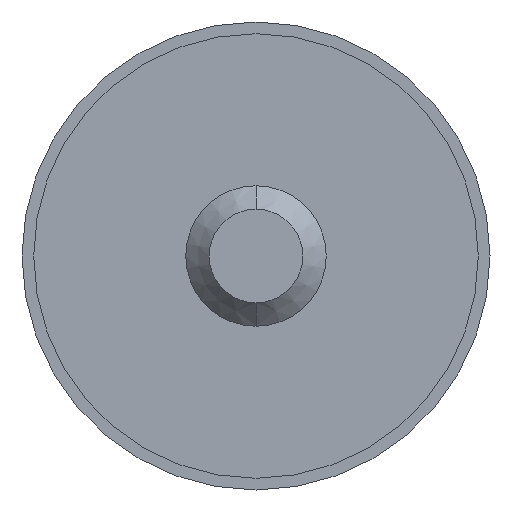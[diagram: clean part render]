
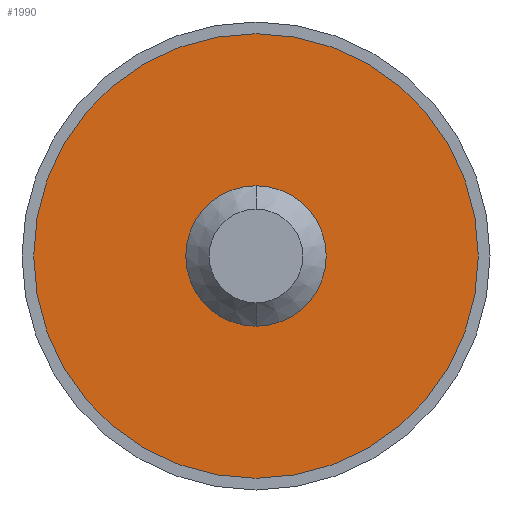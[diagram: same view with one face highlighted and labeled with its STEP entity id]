
A CAD part, front view. The second image highlights one B-rep face of the part: STEP entity #1990.
In plain terms, the highlighted planar face has unit normal (0, -1, 0).
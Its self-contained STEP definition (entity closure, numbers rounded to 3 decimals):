
#79 = DIRECTION ( 'NONE',  ( 0., 1., 0. ) ) ;
#98 = ORIENTED_EDGE ( 'NONE', *, *, #3473, .F. ) ;
#281 = AXIS2_PLACEMENT_3D ( 'NONE', #3089, #3350, #1261 ) ;
#290 = ORIENTED_EDGE ( 'NONE', *, *, #3415, .F. ) ;
#339 = DIRECTION ( 'NONE',  ( 0., -1., 0. ) ) ;
#469 = CIRCLE ( 'NONE', #2973, 3. ) ;
#562 = CARTESIAN_POINT ( 'NONE',  ( 0., -0.5, 0. ) ) ;
#706 = CARTESIAN_POINT ( 'NONE',  ( 0., -0.5, -9.5 ) ) ;
#989 = DIRECTION ( 'NONE',  ( 0., 0., 1. ) ) ;
#1050 = VERTEX_POINT ( 'NONE', #706 ) ;
#1068 = VERTEX_POINT ( 'NONE', #1306 ) ;
#1164 = VERTEX_POINT ( 'NONE', #1408 ) ;
#1261 = DIRECTION ( 'NONE',  ( 0., 0., 1. ) ) ;
#1306 = CARTESIAN_POINT ( 'NONE',  ( 0., -0.5, 3. ) ) ;
#1311 = EDGE_CURVE ( 'NONE', #1068, #1164, #469, .T. ) ;
#1408 = CARTESIAN_POINT ( 'NONE',  ( 0., -0.5, -3. ) ) ;
#1428 = ORIENTED_EDGE ( 'NONE', *, *, #2433, .F. ) ;
#1487 = EDGE_LOOP ( 'NONE', ( #98, #1428 ) ) ;
#1490 = DIRECTION ( 'NONE',  ( 0., -1., 0. ) ) ;
#1535 = VERTEX_POINT ( 'NONE', #3765 ) ;
#1702 = CARTESIAN_POINT ( 'NONE',  ( 0., -0.5, 0. ) ) ;
#1710 = FACE_BOUND ( 'NONE', #1730, .T. ) ;
#1730 = EDGE_LOOP ( 'NONE', ( #1918, #290 ) ) ;
#1804 = AXIS2_PLACEMENT_3D ( 'NONE', #562, #2428, #3433 ) ;
#1898 = AXIS2_PLACEMENT_3D ( 'NONE', #3601, #339, #3617 ) ;
#1918 = ORIENTED_EDGE ( 'NONE', *, *, #1311, .F. ) ;
#1990 = ADVANCED_FACE ( 'NONE', ( #1710, #2534 ), #2170, .F. ) ;
#2139 = AXIS2_PLACEMENT_3D ( 'NONE', #2505, #79, #989 ) ;
#2170 = PLANE ( 'NONE',  #2139 ) ;
#2428 = DIRECTION ( 'NONE',  ( 0., 1., 0. ) ) ;
#2433 = EDGE_CURVE ( 'NONE', #1050, #1535, #3917, .T. ) ;
#2505 = CARTESIAN_POINT ( 'NONE',  ( 0., -0.5, 0. ) ) ;
#2534 = FACE_OUTER_BOUND ( 'NONE', #1487, .T. ) ;
#2973 = AXIS2_PLACEMENT_3D ( 'NONE', #1702, #1490, #3590 ) ;
#3034 = CIRCLE ( 'NONE', #281, 9.5 ) ;
#3089 = CARTESIAN_POINT ( 'NONE',  ( 0., -0.5, 0. ) ) ;
#3192 = CIRCLE ( 'NONE', #1898, 3. ) ;
#3350 = DIRECTION ( 'NONE',  ( 0., 1., 0. ) ) ;
#3415 = EDGE_CURVE ( 'NONE', #1164, #1068, #3192, .T. ) ;
#3433 = DIRECTION ( 'NONE',  ( 0., 0., 1. ) ) ;
#3473 = EDGE_CURVE ( 'NONE', #1535, #1050, #3034, .T. ) ;
#3590 = DIRECTION ( 'NONE',  ( 0., 0., -1. ) ) ;
#3601 = CARTESIAN_POINT ( 'NONE',  ( 0., -0.5, 0. ) ) ;
#3617 = DIRECTION ( 'NONE',  ( 0., 0., -1. ) ) ;
#3765 = CARTESIAN_POINT ( 'NONE',  ( 0., -0.5, 9.5 ) ) ;
#3917 = CIRCLE ( 'NONE', #1804, 9.5 ) ;
